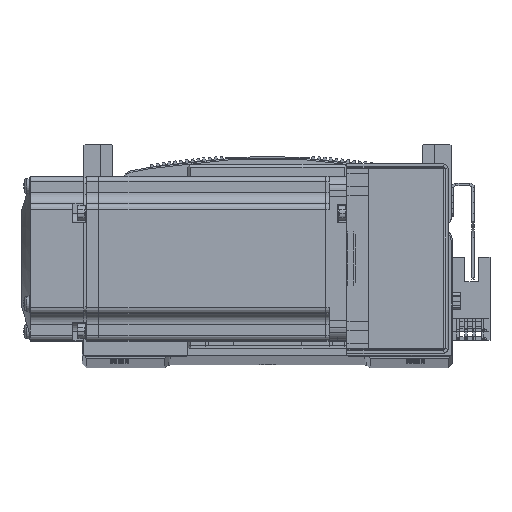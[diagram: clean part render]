
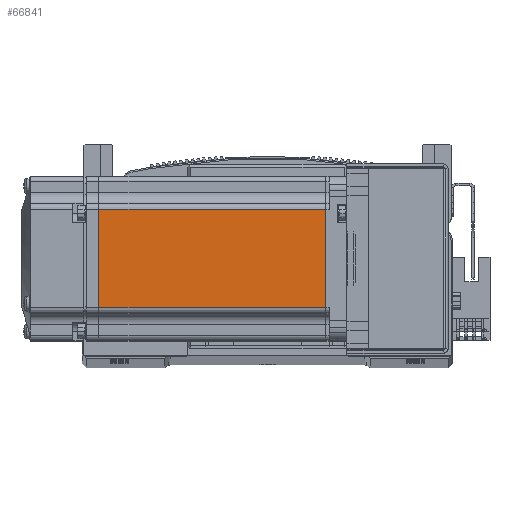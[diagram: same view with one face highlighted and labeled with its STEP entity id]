
A CAD part, top view. The second image highlights one B-rep face of the part: STEP entity #66841.
In plain terms, the highlighted planar face has unit normal (0, 0, 1) as drawn and (0, -1, 0) by its records, which use the part's own axes.
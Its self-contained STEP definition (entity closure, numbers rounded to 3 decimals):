
#16917 = CARTESIAN_POINT ( 'NONE',  ( -7.75, -30., 0. ) ) ;
#16918 = CARTESIAN_POINT ( 'NONE',  ( -90.45, -30., 0. ) ) ;
#16936 = DIRECTION ( 'NONE',  ( 0., 0., -1. ) ) ;
#16952 = DIRECTION ( 'NONE',  ( 0., 0., -1. ) ) ;
#18578 = DIRECTION ( 'NONE',  ( 0., -1., 0. ) ) ;
#18582 = DIRECTION ( 'NONE',  ( 0., 0., -1. ) ) ;
#18600 = PLANE ( 'NONE',  #39666 ) ;
#18610 = CARTESIAN_POINT ( 'NONE',  ( -6.5, -30., -25. ) ) ;
#21432 = DIRECTION ( 'NONE',  ( -1., 0., 0. ) ) ;
#21476 = CARTESIAN_POINT ( 'NONE',  ( -6.5, -30., -18. ) ) ;
#21485 = CARTESIAN_POINT ( 'NONE',  ( -6.5, -30., 18. ) ) ;
#21499 = DIRECTION ( 'NONE',  ( -1., 0., 0. ) ) ;
#21786 = FACE_OUTER_BOUND ( 'NONE', #78735, .T. ) ;
#24139 = VECTOR ( 'NONE', #21499, 1000. ) ;
#24156 = VECTOR ( 'NONE', #21432, 1000. ) ;
#24166 = LINE ( 'NONE', #21485, #24139 ) ;
#24175 = LINE ( 'NONE', #21476, #24156 ) ;
#24275 = LINE ( 'NONE', #16918, #24308 ) ;
#24287 = LINE ( 'NONE', #16917, #24309 ) ;
#24308 = VECTOR ( 'NONE', #16936, 1000. ) ;
#24309 = VECTOR ( 'NONE', #16952, 1000. ) ;
#30978 = EDGE_CURVE ( 'NONE', #40320, #40370, #24175, .T. ) ;
#30993 = EDGE_CURVE ( 'NONE', #40392, #40355, #24166, .T. ) ;
#31055 = EDGE_CURVE ( 'NONE', #40392, #40320, #24287, .T. ) ;
#31069 = EDGE_CURVE ( 'NONE', #40355, #40370, #24275, .T. ) ;
#39666 = AXIS2_PLACEMENT_3D ( 'NONE', #18610, #18578, #18582 ) ;
#40320 = VERTEX_POINT ( 'NONE', #67788 ) ;
#40355 = VERTEX_POINT ( 'NONE', #67876 ) ;
#40370 = VERTEX_POINT ( 'NONE', #67904 ) ;
#40392 = VERTEX_POINT ( 'NONE', #67977 ) ;
#50050 = ORIENTED_EDGE ( 'NONE', *, *, #31069, .T. ) ;
#50053 = ORIENTED_EDGE ( 'NONE', *, *, #30993, .T. ) ;
#50054 = ORIENTED_EDGE ( 'NONE', *, *, #30978, .F. ) ;
#50114 = ORIENTED_EDGE ( 'NONE', *, *, #31055, .F. ) ;
#66841 = ADVANCED_FACE ( 'NONE', ( #21786 ), #18600, .T. ) ;
#67788 = CARTESIAN_POINT ( 'NONE',  ( -7.75, -30., -18. ) ) ;
#67876 = CARTESIAN_POINT ( 'NONE',  ( -90.45, -30., 18. ) ) ;
#67904 = CARTESIAN_POINT ( 'NONE',  ( -90.45, -30., -18. ) ) ;
#67977 = CARTESIAN_POINT ( 'NONE',  ( -7.75, -30., 18. ) ) ;
#78735 = EDGE_LOOP ( 'NONE', ( #50114, #50053, #50050, #50054 ) ) ;
